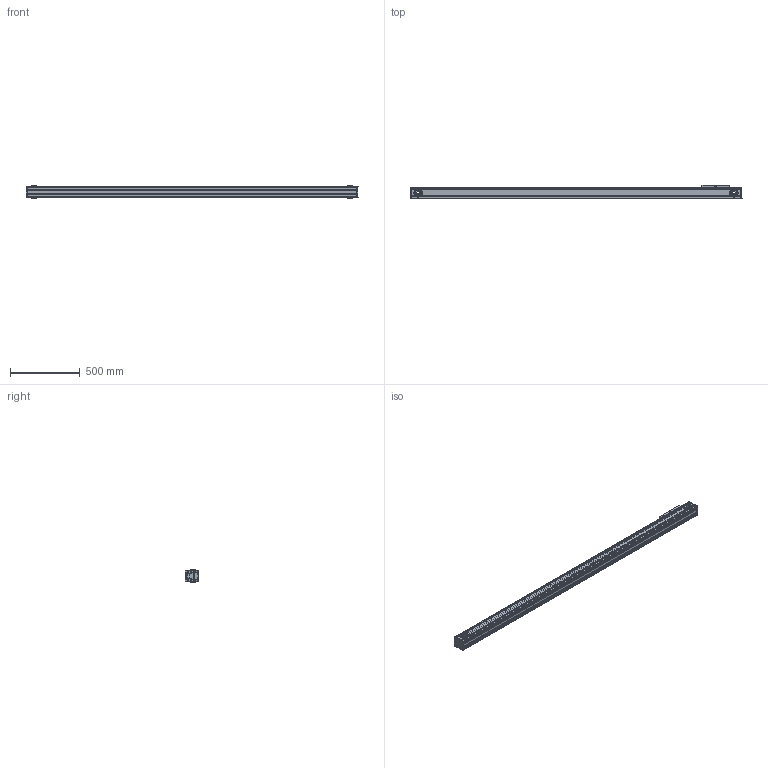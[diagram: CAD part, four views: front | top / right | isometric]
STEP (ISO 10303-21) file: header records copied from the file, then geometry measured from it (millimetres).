
FILE_DESCRIPTION (( 'STEP AP214' ), '1' );
FILE_NAME ('TKR80-2000A1-F0-R3-高速内滚轮直线模组.step', '2025-10-10T03:27:34', ( '' ), ( '' ), 'SwSTEP 2.0', 'SolidWorks 2024', '' );
FILE_SCHEMA (( 'AUTOMOTIVE_DESIGN' ));
Length unit declared in the file: millimetre
Products named in the file (3): TKR80-R3-02; TKR80-2000A1-F0-R3-高速内滚轮直线模组; TKR80-2000-R3-01
Assembly tree (2 placements, depth 2):
  TKR80-2000A1-F0-R3-高速内滚轮直线模组
    TKR80-2000-R3-01
    TKR80-R3-02
Bounding box: 2386 x 100 x 87 mm (x, y, z)
Volume: 6951360.1 mm3; surface area: 2718754.1 mm2
Topology: 1 solids, 52 shells, 2499 faces, 6775 edges, 4338 vertices
Faces by surface type: cylinder 1279, plane 770, torus 244, cone 182, sphere 24
Entity records: 120687 total; most frequent: CARTESIAN_POINT 31465, ORIENTED_EDGE 13382, DIRECTION 13179, EDGE_CURVE 6731, AXIS2_PLACEMENT_3D 5137, VERTEX_POINT 4338, LINE 2905, VECTOR 2905
